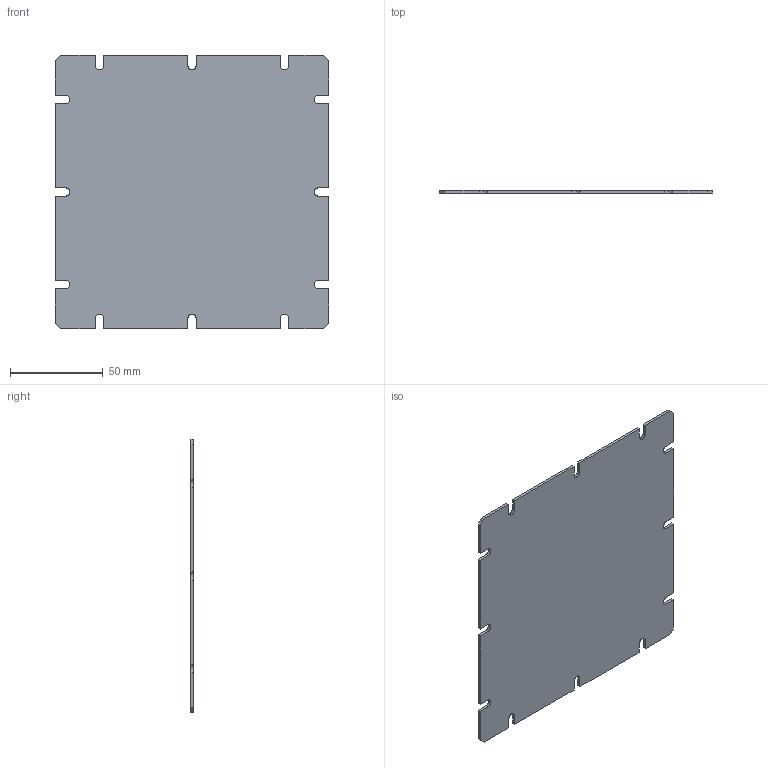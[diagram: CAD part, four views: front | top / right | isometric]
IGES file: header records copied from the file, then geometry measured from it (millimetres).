
Start section: SolidWorks IGES file using analytic representation for surfaces
Global section: file name: G:\3DRAW\MNX\3DCAM\Asennuslevyt\MIV_175.IGS; native system: SolidWorks 2009; preprocessor: SolidWorks 2009; author: KennethW; date: 091119.142457; units: millimetre
Bounding box: 148 x 1.5 x 148 mm (x, y, z)
Surface area: 44090.8 mm2 (no closed solid volume)
Topology: 0 solids, 0 shells, 61 faces, 708 edges, 708 vertices
Faces by surface type: bspline 46, revolution 15
